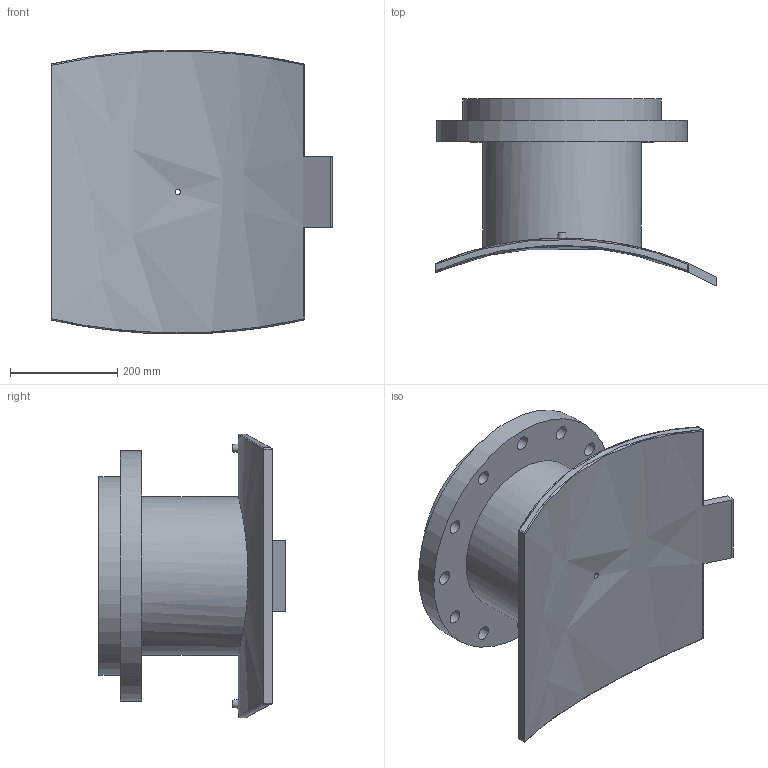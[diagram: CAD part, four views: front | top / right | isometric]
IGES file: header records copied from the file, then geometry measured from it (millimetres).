
Global section: file name: 4959031200300T; native system: Autodesk Inventor 2019; preprocessor: unknown; author: KIM; date: 20240403.210550; units: millimetre
Bounding box: 526 x 347.29 x 529.57 mm (x, y, z)
Volume: 13802069.1 mm3; surface area: 1288729.8 mm2
Topology: 1 solids, 1 shells, 62 faces, 163 edges, 126 vertices
Faces by surface type: bspline 62
